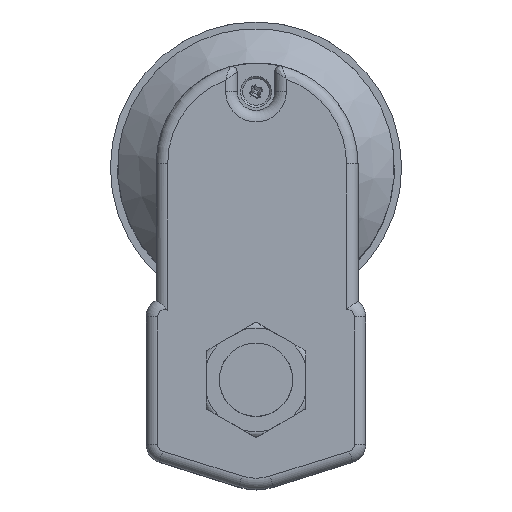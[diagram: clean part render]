
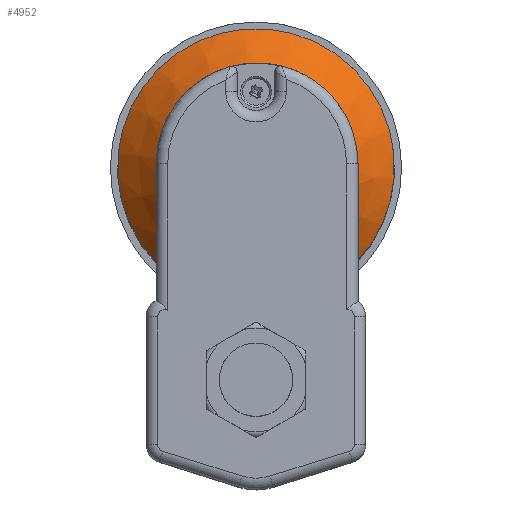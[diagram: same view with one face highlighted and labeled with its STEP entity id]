
A CAD part, top view. The second image highlights one B-rep face of the part: STEP entity #4952.
In plain terms, the highlighted conical face has half-angle 45 degrees and reference radius 48 mm.
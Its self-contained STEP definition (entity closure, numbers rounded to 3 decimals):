
#673 = FACE_OUTER_BOUND ( 'NONE', #3559, .T. ) ;
#679 = FACE_BOUND ( 'NONE', #3497, .T. ) ;
#680 = CONICAL_SURFACE ( 'NONE', #4351, 48., 0.785 ) ;
#1398 = DIRECTION ( 'NONE',  ( 0., 1., 0. ) ) ;
#1408 = CARTESIAN_POINT ( 'NONE',  ( 0., 73.9, 53.5 ) ) ;
#1409 = DIRECTION ( 'NONE',  ( 0., 0., -1. ) ) ;
#1687 = CARTESIAN_POINT ( 'NONE',  ( 0., 73.9, 53.5 ) ) ;
#1697 = CARTESIAN_POINT ( 'NONE',  ( -27.908, 34.847, 53.5 ) ) ;
#1698 = DIRECTION ( 'NONE',  ( 0., 0., 1. ) ) ;
#1699 = DIRECTION ( 'NONE',  ( 0., -1., 0. ) ) ;
#1700 = CARTESIAN_POINT ( 'NONE',  ( -26.826, 34.768, 54.065 ) ) ;
#1701 = CARTESIAN_POINT ( 'NONE',  ( -25.733, 34.688, 54.609 ) ) ;
#1702 = CARTESIAN_POINT ( 'NONE',  ( -23.531, 34.53, 55.644 ) ) ;
#1703 = CARTESIAN_POINT ( 'NONE',  ( -22.421, 34.452, 56.137 ) ) ;
#1704 = CARTESIAN_POINT ( 'NONE',  ( -19.06, 34.223, 57.53 ) ) ;
#1705 = CARTESIAN_POINT ( 'NONE',  ( -16.779, 34.077, 58.344 ) ) ;
#1706 = CARTESIAN_POINT ( 'NONE',  ( -13.28, 33.887, 59.356 ) ) ;
#1707 = CARTESIAN_POINT ( 'NONE',  ( -12.101, 33.829, 59.657 ) ) ;
#1708 = CARTESIAN_POINT ( 'NONE',  ( -9.715, 33.725, 60.183 ) ) ;
#1709 = CARTESIAN_POINT ( 'NONE',  ( -8.505, 33.679, 60.407 ) ) ;
#1710 = CARTESIAN_POINT ( 'NONE',  ( -6.081, 33.605, 60.767 ) ) ;
#1711 = CARTESIAN_POINT ( 'NONE',  ( -4.863, 33.577, 60.903 ) ) ;
#1712 = CARTESIAN_POINT ( 'NONE',  ( -2.415, 33.538, 61.085 ) ) ;
#1713 = CARTESIAN_POINT ( 'NONE',  ( -1.188, 33.529, 61.13 ) ) ;
#1714 = CARTESIAN_POINT ( 'NONE',  ( 2.477, 33.529, 61.127 ) ) ;
#1715 = CARTESIAN_POINT ( 'NONE',  ( 4.908, 33.569, 60.942 ) ) ;
#1716 = CARTESIAN_POINT ( 'NONE',  ( 8.537, 33.68, 60.402 ) ) ;
#1717 = CARTESIAN_POINT ( 'NONE',  ( 9.746, 33.726, 60.177 ) ) ;
#1718 = CARTESIAN_POINT ( 'NONE',  ( 12.13, 33.83, 59.65 ) ) ;
#1719 = CARTESIAN_POINT ( 'NONE',  ( 13.307, 33.888, 59.348 ) ) ;
#1720 = CARTESIAN_POINT ( 'NONE',  ( 16.801, 34.078, 58.337 ) ) ;
#1721 = CARTESIAN_POINT ( 'NONE',  ( 19.078, 34.224, 57.523 ) ) ;
#1722 = CARTESIAN_POINT ( 'NONE',  ( 23.55, 34.529, 55.668 ) ) ;
#1723 = CARTESIAN_POINT ( 'NONE',  ( 25.745, 34.688, 54.629 ) ) ;
#1724 = CARTESIAN_POINT ( 'NONE',  ( 27.908, 34.847, 53.5 ) ) ;
#1725 = CARTESIAN_POINT ( 'NONE',  ( 0., 73.9, 67.5 ) ) ;
#1729 = DIRECTION ( 'NONE',  ( 0., 0., 1. ) ) ;
#1730 = DIRECTION ( 'NONE',  ( 0., -1., 0. ) ) ;
#3173 = ORIENTED_EDGE ( 'NONE', *, *, #5005, .F. ) ;
#3198 = ORIENTED_EDGE ( 'NONE', *, *, #5003, .T. ) ;
#3233 = ORIENTED_EDGE ( 'NONE', *, *, #5002, .T. ) ;
#3497 = EDGE_LOOP ( 'NONE', ( #3173 ) ) ;
#3559 = EDGE_LOOP ( 'NONE', ( #3233, #3198 ) ) ;
#4009 = VERTEX_POINT ( 'NONE', #4175 ) ;
#4029 = VERTEX_POINT ( 'NONE', #4195 ) ;
#4175 = CARTESIAN_POINT ( 'NONE',  ( 27.908, 34.847, 53.5 ) ) ;
#4195 = CARTESIAN_POINT ( 'NONE',  ( -27.908, 34.847, 53.5 ) ) ;
#4351 = AXIS2_PLACEMENT_3D ( 'NONE', #1408, #1409, #1398 ) ;
#4402 = AXIS2_PLACEMENT_3D ( 'NONE', #1687, #1698, #1699 ) ;
#4409 = AXIS2_PLACEMENT_3D ( 'NONE', #1725, #1729, #1730 ) ;
#4952 = ADVANCED_FACE ( 'NONE', ( #679, #673 ), #680, .T. ) ;
#5002 = EDGE_CURVE ( 'NONE', #4009, #4029, #5392, .T. ) ;
#5003 = EDGE_CURVE ( 'NONE', #4029, #4009, #5328, .T. ) ;
#5005 = EDGE_CURVE ( 'NONE', #5687, #5687, #5394, .T. ) ;
#5328 = B_SPLINE_CURVE_WITH_KNOTS ( 'NONE', 3,
 ( #1697, #1700, #1701, #1702, #1703, #1704, #1705, #1706, #1707, #1708, #1709, #1710, #1711, #1712, #1713, #1714, #1715, #1716, #1717, #1718, #1719, #1720, #1721, #1722, #1723, #1724 ),
 .UNSPECIFIED., .F., .F.,
 ( 4, 2, 2, 2, 2, 2, 2, 2, 2, 2, 2, 2, 4 ),
 ( 0., 0.004, 0.007, 0.015, 0.018, 0.022, 0.026, 0.029, 0.037, 0.04, 0.044, 0.051, 0.059 ),
 .UNSPECIFIED. ) ;
#5392 = CIRCLE ( 'NONE', #4402, 48. ) ;
#5394 = CIRCLE ( 'NONE', #4409, 34. ) ;
#5687 = VERTEX_POINT ( 'NONE', #5688 ) ;
#5688 = CARTESIAN_POINT ( 'NONE',  ( 0., 39.9, 67.5 ) ) ;
